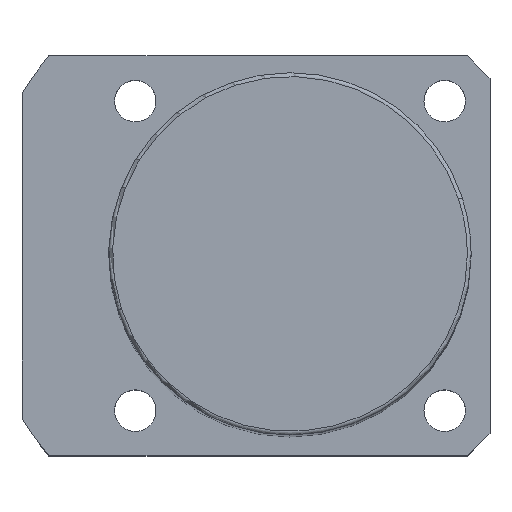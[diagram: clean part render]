
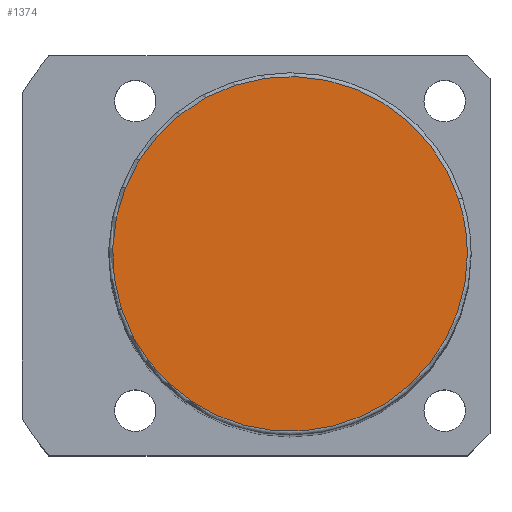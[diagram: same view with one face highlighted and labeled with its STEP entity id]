
A CAD part, top view. The second image highlights one B-rep face of the part: STEP entity #1374.
In plain terms, the highlighted planar face has unit normal (0, 0, 1).
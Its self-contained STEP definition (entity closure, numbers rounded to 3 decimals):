
#1307=CARTESIAN_POINT('',(22.35,7.262,159.0));
#1308=VERTEX_POINT('',#1307);
#1326=CARTESIAN_POINT('',(-22.35,-7.262,159.0));
#1327=VERTEX_POINT('',#1326);
#1335=CARTESIAN_POINT('',(0.0,0.0,159.0));
#1336=DIRECTION('',(0.0,0.0,1.0));
#1337=DIRECTION('',(1.0,0.0,0.0));
#1338=AXIS2_PLACEMENT_3D('',#1335,#1336,#1337);
#1339=CIRCLE('',#1338,23.5);
#1340=EDGE_CURVE('no 1851',#1308,#1327,#1339,.T.);
#1350=CARTESIAN_POINT('',(23.5,0.0,159.0));
#1351=VERTEX_POINT('',#1350);
#1352=CARTESIAN_POINT('',(0.0,0.0,159.0));
#1353=DIRECTION('',(0.0,0.0,1.0));
#1354=DIRECTION('',(1.0,0.0,0.0));
#1355=AXIS2_PLACEMENT_3D('',#1352,#1353,#1354);
#1356=CIRCLE('',#1355,23.5);
#1357=EDGE_CURVE('no 1860',#1351,#1308,#1356,.T.);
#1358=ORIENTED_EDGE('',*,*,#1357,.T.);
#1359=ORIENTED_EDGE('',*,*,#1340,.T.);
#1360=CARTESIAN_POINT('',(0.0,0.0,159.0));
#1361=DIRECTION('',(0.0,0.0,1.0));
#1362=DIRECTION('',(1.0,0.0,0.0));
#1363=AXIS2_PLACEMENT_3D('',#1360,#1361,#1362);
#1364=CIRCLE('',#1363,23.5);
#1365=EDGE_CURVE('no 1866',#1327,#1351,#1364,.T.);
#1366=ORIENTED_EDGE('',*,*,#1365,.T.);
#1367=EDGE_LOOP('',(#1358,#1359,#1366));
#1368=FACE_OUTER_BOUND('',#1367,.T.);
#1369=CARTESIAN_POINT('',(0.0,0.0,159.0));
#1370=DIRECTION('',(0.0,0.0,1.0));
#1371=DIRECTION('',(1.0,0.0,0.0));
#1372=AXIS2_PLACEMENT_3D('',#1369,#1370,#1371);
#1373=PLANE('',#1372);
#1374=ADVANCED_FACE('no 1853',(#1368),#1373,.T.);
